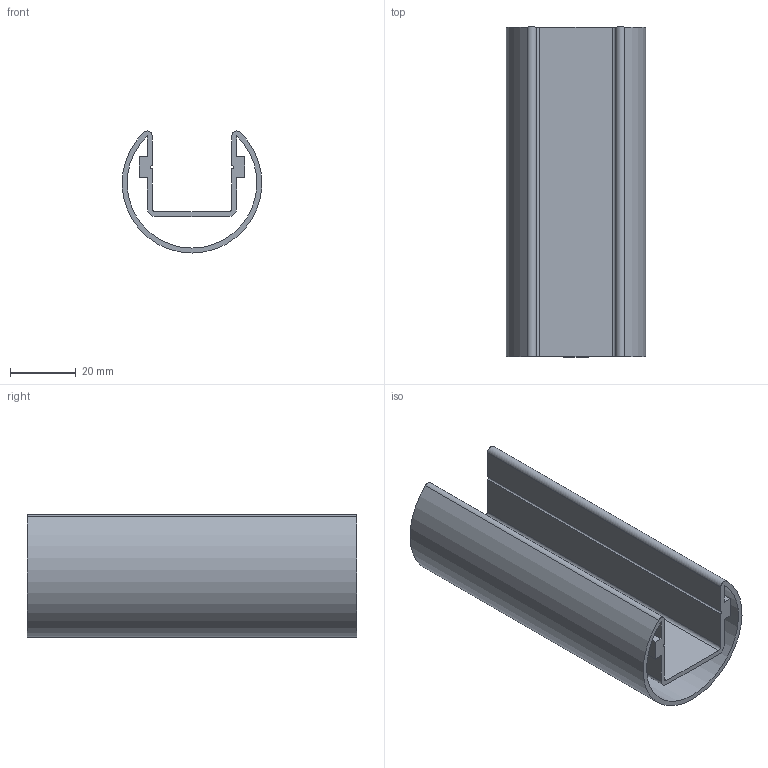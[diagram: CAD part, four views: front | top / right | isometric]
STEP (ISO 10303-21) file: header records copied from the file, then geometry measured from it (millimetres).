
FILE_DESCRIPTION(/* description */ ('STEP AP214'),/* implementation_level */ '2;1');
FILE_NAME(/* name */ '66741cad787dc8493cafcda7',/* time_stamp */ '2024-06-20T12:12:30Z',/* author */ (''),/* organization */ (''),/* preprocessor_version */ 'ST-DEVELOPER v20',/* originating_system */ ' ',/* authorisation */ ' ');
FILE_SCHEMA (('AUTOMOTIVE_DESIGN {1 0 10303 214 3 1 1}'));
Length unit declared in the file: metre
Products named in the file (1): Lilly vereinfacht
Bounding box: 42.37 x 100 x 37 mm (x, y, z)
Volume: 28980.6 mm3; surface area: 36205.6 mm2
Topology: 1 solids, 1 shells, 30 faces, 84 edges, 56 vertices
Faces by surface type: plane 18, cylinder 12
Entity records: 1006 total; most frequent: CARTESIAN_POINT 171, DIRECTION 170, ORIENTED_EDGE 168, EDGE_CURVE 84, LINE 60, VECTOR 60, VERTEX_POINT 56, AXIS2_PLACEMENT_3D 55
